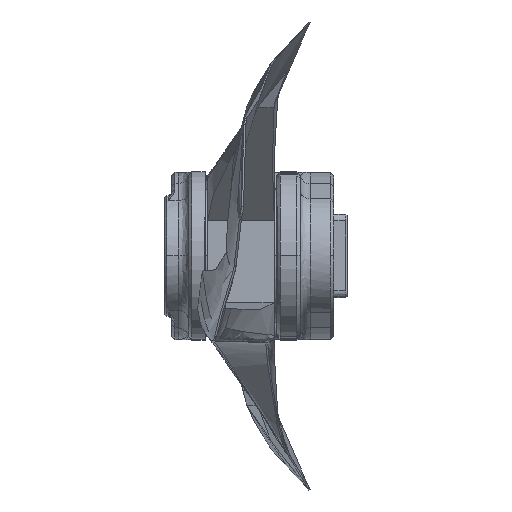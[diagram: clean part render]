
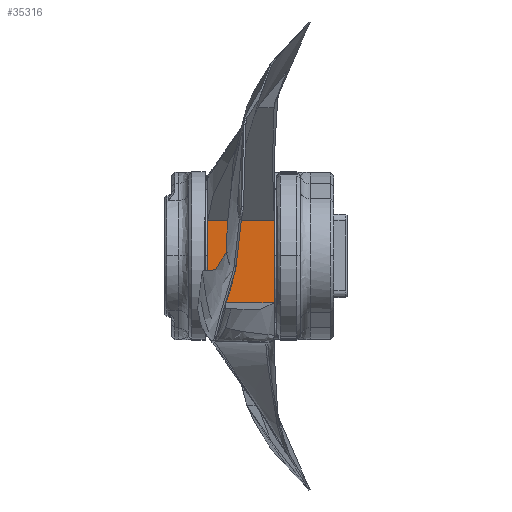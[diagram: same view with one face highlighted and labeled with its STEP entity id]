
A CAD part, top view. The second image highlights one B-rep face of the part: STEP entity #35316.
In plain terms, the highlighted planar face has unit normal (0, 0, 1).
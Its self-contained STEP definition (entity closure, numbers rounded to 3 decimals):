
#1072 = VERTEX_POINT ( 'NONE', #4658 ) ;
#1532 = CARTESIAN_POINT ( 'NONE',  ( -184.138, -8.51, 84.646 ) ) ;
#1947 = CARTESIAN_POINT ( 'NONE',  ( -184.164, -16.692, 84.646 ) ) ;
#2876 = EDGE_CURVE ( 'NONE', #26673, #3886, #20134, .T. ) ;
#3622 = CARTESIAN_POINT ( 'NONE',  ( -164.29, -28.966, 84.646 ) ) ;
#3886 = VERTEX_POINT ( 'NONE', #16213 ) ;
#4243 = EDGE_CURVE ( 'NONE', #1072, #26673, #38261, .T. ) ;
#4658 = CARTESIAN_POINT ( 'NONE',  ( -164.23, -4.419, 84.646 ) ) ;
#5164 = CARTESIAN_POINT ( 'NONE',  ( -184.176, -20.784, 84.646 ) ) ;
#7755 = CARTESIAN_POINT ( 'NONE',  ( -184.121, -4.419, 84.646 ) ) ;
#8289 = FACE_OUTER_BOUND ( 'NONE', #39542, .T. ) ;
#10959 = CARTESIAN_POINT ( 'NONE',  ( -184.152, -12.601, 84.646 ) ) ;
#11041 = EDGE_CURVE ( 'NONE', #1072, #32871, #37435, .T. ) ;
#11666 = CARTESIAN_POINT ( 'NONE',  ( -164.29, -28.966, 84.646 ) ) ;
#12588 = DIRECTION ( 'NONE',  ( -1., 0., 0. ) ) ;
#12611 = CARTESIAN_POINT ( 'NONE',  ( -164.239, -8.51, 84.646 ) ) ;
#14594 = CARTESIAN_POINT ( 'NONE',  ( -184.194, -28.966, 84.646 ) ) ;
#15256 = ORIENTED_EDGE ( 'NONE', *, *, #4243, .T. ) ;
#16213 = CARTESIAN_POINT ( 'NONE',  ( -184.194, -28.966, 84.646 ) ) ;
#19860 = LINE ( 'NONE', #26707, #34724 ) ;
#20134 = B_SPLINE_CURVE_WITH_KNOTS ( 'NONE', 3,
 ( #7755, #1532, #10959, #1947, #5164, #37051, #14594 ),
 .UNSPECIFIED., .F., .F.,
 ( 4, 3, 4 ),
 ( 0., 0.012, 0.025 ),
 .UNSPECIFIED. ) ;
#20914 = CARTESIAN_POINT ( 'NONE',  ( -152.738, -28.966, 84.646 ) ) ;
#21127 = DIRECTION ( 'NONE',  ( 0., 0., -1. ) ) ;
#21750 = PLANE ( 'NONE',  #36078 ) ;
#25673 = CARTESIAN_POINT ( 'NONE',  ( -164.259, -16.692, 84.646 ) ) ;
#26099 = CARTESIAN_POINT ( 'NONE',  ( -164.23, -4.419, 84.646 ) ) ;
#26308 = CARTESIAN_POINT ( 'NONE',  ( -164.269, -20.784, 84.646 ) ) ;
#26409 = ORIENTED_EDGE ( 'NONE', *, *, #2876, .T. ) ;
#26673 = VERTEX_POINT ( 'NONE', #34647 ) ;
#26707 = CARTESIAN_POINT ( 'NONE',  ( -152.738, -28.966, 84.646 ) ) ;
#28432 = CARTESIAN_POINT ( 'NONE',  ( -152.738, -4.419, 84.646 ) ) ;
#29085 = CARTESIAN_POINT ( 'NONE',  ( -164.249, -12.601, 84.646 ) ) ;
#30755 = VECTOR ( 'NONE', #12588, 1000. ) ;
#31514 = ORIENTED_EDGE ( 'NONE', *, *, #35159, .T. ) ;
#32871 = VERTEX_POINT ( 'NONE', #11666 ) ;
#32910 = DIRECTION ( 'NONE',  ( 1., 0., 0. ) ) ;
#32940 = CARTESIAN_POINT ( 'NONE',  ( -164.279, -24.875, 84.646 ) ) ;
#34647 = CARTESIAN_POINT ( 'NONE',  ( -184.121, -4.419, 84.646 ) ) ;
#34724 = VECTOR ( 'NONE', #32910, 1000. ) ;
#35159 = EDGE_CURVE ( 'NONE', #3886, #32871, #19860, .T. ) ;
#35316 = ADVANCED_FACE ( 'NONE', ( #8289 ), #21750, .F. ) ;
#36078 = AXIS2_PLACEMENT_3D ( 'NONE', #20914, #21127, #40778 ) ;
#37051 = CARTESIAN_POINT ( 'NONE',  ( -184.187, -24.875, 84.646 ) ) ;
#37435 = B_SPLINE_CURVE_WITH_KNOTS ( 'NONE', 3,
 ( #26099, #12611, #29085, #25673, #26308, #32940, #3622 ),
 .UNSPECIFIED., .F., .F.,
 ( 4, 3, 4 ),
 ( 0., 0.012, 0.025 ),
 .UNSPECIFIED. ) ;
#38261 = LINE ( 'NONE', #28432, #30755 ) ;
#39542 = EDGE_LOOP ( 'NONE', ( #40357, #15256, #26409, #31514 ) ) ;
#40357 = ORIENTED_EDGE ( 'NONE', *, *, #11041, .F. ) ;
#40778 = DIRECTION ( 'NONE',  ( -1., 0., 0. ) ) ;
